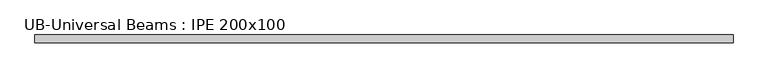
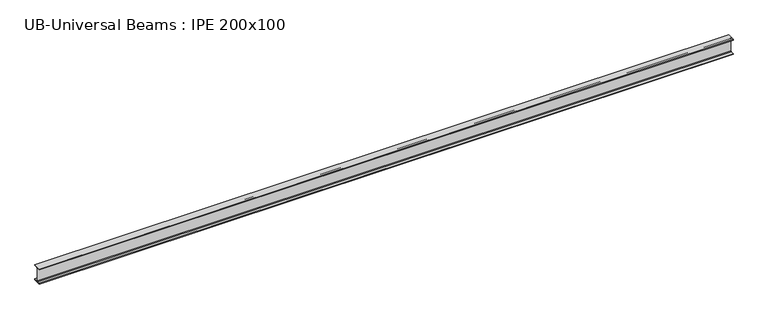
"""IFC4 building model written with IfcOpenShell, lengths in millimetres: beam geometry, UB-Universal Beams : IPE 200x100."""

from ifc_helpers import new_model, si_unit, point, frame, frame_2d, origin, place, context, project, spatial, polyline, circle_curve, trimmed, segment, composite_curve, outline, extrude, source, transform, mapped, element, save


def ub_universal_beams_ipe_200x100_60d02f98(model_context):
    return source(origin(), model_context, "Body", "SweptSolid", [
        extrude(outline(composite_curve([segment(polyline([(50.0, -89.8), (50.0, -100.0), (-50.0, -100.0), (-50.0, -89.8), (-11.9, -89.8)]), True, "CONTINUOUS"), segment(trimmed(circle_curve(frame_2d((-11.9, -80.9)), 8.9), [point((-11.9, -89.8))], [point((-3.0, -80.9))], True, "CARTESIAN"), True, "CONTINUOUS"), segment(polyline([(-3.0, -80.9), (-3.0, 80.9)]), True, "CONTINUOUS"), segment(trimmed(circle_curve(frame_2d((-11.9, 80.9)), 8.9), [point((-3.0, 80.9))], [point((-11.9, 89.8))], True, "CARTESIAN"), True, "CONTINUOUS"), segment(polyline([(-11.9, 89.8), (-50.0, 89.8), (-50.0, 100.0), (50.0, 100.0), (50.0, 89.8), (11.9, 89.8)]), True, "CONTINUOUS"), segment(trimmed(circle_curve(frame_2d((11.9, 80.9)), 8.9), [point((11.9, 89.8))], [point((3.0, 80.9))], True, "CARTESIAN"), True, "CONTINUOUS"), segment(polyline([(3.0, 80.9), (3.0, -80.9)]), True, "CONTINUOUS"), segment(trimmed(circle_curve(frame_2d((11.9, -80.9)), 8.9), [point((3.0, -80.9))], [point((11.9, -89.8))], True, "CARTESIAN"), True, "CONTINUOUS"), segment(polyline([(11.9, -89.8), (50.0, -89.8)]), True, "CONTINUOUS")], self_intersect=False)), frame((-4575.85, 0.0, 0.0), z_axis=(1.0, 0.0, 0.0), x_axis=(0.0, 1.0, 0.0)), (0.0, 0.0, 1.0), 8776.7),
    ])


if __name__ == "__main__":
    model = new_model("IFC4")
    model_context = context("Model", 3, world=origin())
    ifc_project = project(units=[si_unit("LENGTHUNIT", "METRE", prefix="MILLI")], contexts=[model_context])
    site = spatial("IfcSite", under=ifc_project)
    building = spatial("IfcBuilding", under=site)
    placement = place(None, origin())
    ub_universal_beams_ipe_200x100_shape = ub_universal_beams_ipe_200x100_60d02f98(model_context)
    element("IfcBeam", 1, ObjectType="UB-Universal Beams : IPE 200x100", at=placement, inside=building, context=model_context, shape_type="MappedRepresentation", body=[
        mapped(ub_universal_beams_ipe_200x100_shape, transform((0.0, 0.0, 0.0), x_axis=(1.0, 0.0, 0.0), y_axis=(0.0, 1.0, 0.0), z_axis=(0.0, 0.0, 1.0))),
    ])
    save(model, "model.ifc")
